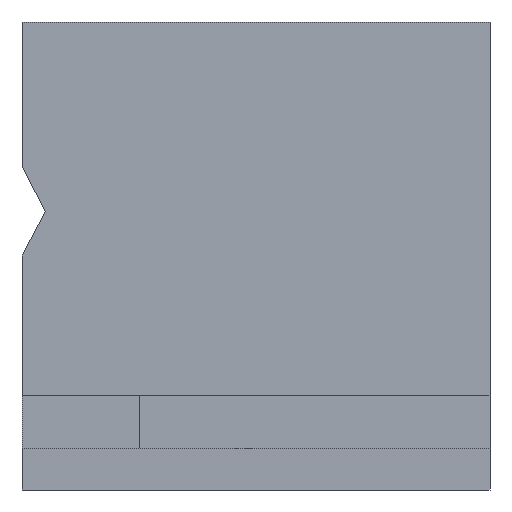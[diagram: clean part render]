
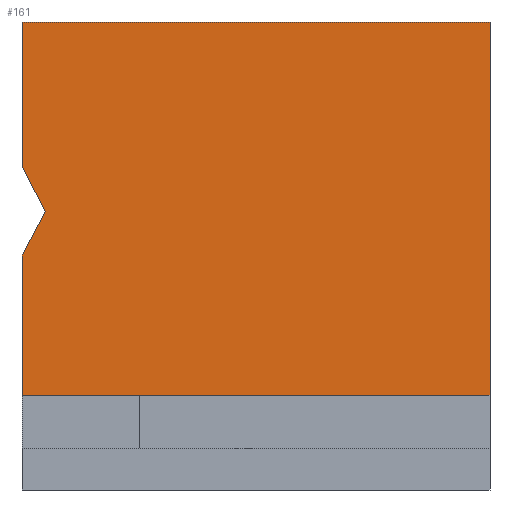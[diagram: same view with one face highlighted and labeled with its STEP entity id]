
A CAD part, front view. The second image highlights one B-rep face of the part: STEP entity #161.
In plain terms, the highlighted planar face has unit normal (0, -1, 0).
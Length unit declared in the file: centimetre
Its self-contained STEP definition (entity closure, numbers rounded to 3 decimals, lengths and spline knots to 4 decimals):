
#19 = FACE_OUTER_BOUND ( 'NONE', #181, .T. ) ;
#34 = VECTOR ( 'NONE', #1094, 100. ) ;
#52 = CARTESIAN_POINT ( 'NONE',  ( 1000., 0., 202.5044 ) ) ;
#59 = ORIENTED_EDGE ( 'NONE', *, *, #814, .T. ) ;
#68 = VERTEX_POINT ( 'NONE', #1042 ) ;
#108 = VERTEX_POINT ( 'NONE', #1004 ) ;
#127 = EDGE_CURVE ( 'NONE', #306, #1071, #290, .T. ) ;
#139 = CARTESIAN_POINT ( 'NONE',  ( 0., 0., 500. ) ) ;
#158 = VECTOR ( 'NONE', #912, 100. ) ;
#160 = DIRECTION ( 'NONE',  ( 0., 0., -1. ) ) ;
#161 = ADVANCED_FACE ( 'NONE', ( #19 ), #1023, .F. ) ;
#181 = EDGE_LOOP ( 'NONE', ( #393, #459, #411, #59, #589, #817, #235 ) ) ;
#190 = DIRECTION ( 'NONE',  ( 0., 0., 1. ) ) ;
#203 = DIRECTION ( 'NONE',  ( 0., 1., 0. ) ) ;
#213 = EDGE_CURVE ( 'NONE', #68, #758, #669, .T. ) ;
#235 = ORIENTED_EDGE ( 'NONE', *, *, #213, .F. ) ;
#265 = VECTOR ( 'NONE', #713, 100. ) ;
#287 = LINE ( 'NONE', #584, #702 ) ;
#290 = LINE ( 'NONE', #469, #1173 ) ;
#293 = AXIS2_PLACEMENT_3D ( 'NONE', #580, #203, #190 ) ;
#306 = VERTEX_POINT ( 'NONE', #440 ) ;
#393 = ORIENTED_EDGE ( 'NONE', *, *, #1060, .T. ) ;
#411 = ORIENTED_EDGE ( 'NONE', *, *, #734, .F. ) ;
#415 = CARTESIAN_POINT ( 'NONE',  ( 1000., 0., 1000. ) ) ;
#417 = LINE ( 'NONE', #970, #552 ) ;
#440 = CARTESIAN_POINT ( 'NONE',  ( 50., 0., 595.1679 ) ) ;
#449 = CARTESIAN_POINT ( 'NONE',  ( 0., 0., 1000. ) ) ;
#459 = ORIENTED_EDGE ( 'NONE', *, *, #127, .F. ) ;
#469 = CARTESIAN_POINT ( 'NONE',  ( 50., 0., 595.1679 ) ) ;
#515 = CARTESIAN_POINT ( 'NONE',  ( 0., 0., 202.5044 ) ) ;
#552 = VECTOR ( 'NONE', #160, 100. ) ;
#580 = CARTESIAN_POINT ( 'NONE',  ( 0., 0., 1000. ) ) ;
#584 = CARTESIAN_POINT ( 'NONE',  ( 0., 0., 202.5044 ) ) ;
#585 = EDGE_CURVE ( 'NONE', #746, #644, #287, .T. ) ;
#589 = ORIENTED_EDGE ( 'NONE', *, *, #585, .T. ) ;
#634 = CARTESIAN_POINT ( 'NONE',  ( 0., 0., 692.3009 ) ) ;
#644 = VERTEX_POINT ( 'NONE', #52 ) ;
#663 = EDGE_CURVE ( 'NONE', #758, #644, #956, .T. ) ;
#664 = DIRECTION ( 'NONE',  ( -0.458, 0., 0.889 ) ) ;
#669 = LINE ( 'NONE', #824, #34 ) ;
#702 = VECTOR ( 'NONE', #838, 100. ) ;
#713 = DIRECTION ( 'NONE',  ( 0.465, 0., 0.885 ) ) ;
#718 = LINE ( 'NONE', #449, #158 ) ;
#734 = EDGE_CURVE ( 'NONE', #108, #306, #796, .T. ) ;
#746 = VERTEX_POINT ( 'NONE', #515 ) ;
#758 = VERTEX_POINT ( 'NONE', #958 ) ;
#782 = DIRECTION ( 'NONE',  ( 0., 0., -1. ) ) ;
#796 = LINE ( 'NONE', #139, #265 ) ;
#814 = EDGE_CURVE ( 'NONE', #108, #746, #417, .T. ) ;
#817 = ORIENTED_EDGE ( 'NONE', *, *, #663, .F. ) ;
#824 = CARTESIAN_POINT ( 'NONE',  ( 0., 0., 1000. ) ) ;
#838 = DIRECTION ( 'NONE',  ( 1., 0., 0. ) ) ;
#912 = DIRECTION ( 'NONE',  ( 0., 0., -1. ) ) ;
#956 = LINE ( 'NONE', #415, #1141 ) ;
#958 = CARTESIAN_POINT ( 'NONE',  ( 1000., 0., 1000. ) ) ;
#970 = CARTESIAN_POINT ( 'NONE',  ( 0., 0., 1000. ) ) ;
#1004 = CARTESIAN_POINT ( 'NONE',  ( 0., 0., 500. ) ) ;
#1023 = PLANE ( 'NONE',  #293 ) ;
#1042 = CARTESIAN_POINT ( 'NONE',  ( 0., 0., 1000. ) ) ;
#1060 = EDGE_CURVE ( 'NONE', #68, #1071, #718, .T. ) ;
#1071 = VERTEX_POINT ( 'NONE', #634 ) ;
#1094 = DIRECTION ( 'NONE',  ( 1., 0., 0. ) ) ;
#1141 = VECTOR ( 'NONE', #782, 100. ) ;
#1173 = VECTOR ( 'NONE', #664, 100. ) ;
